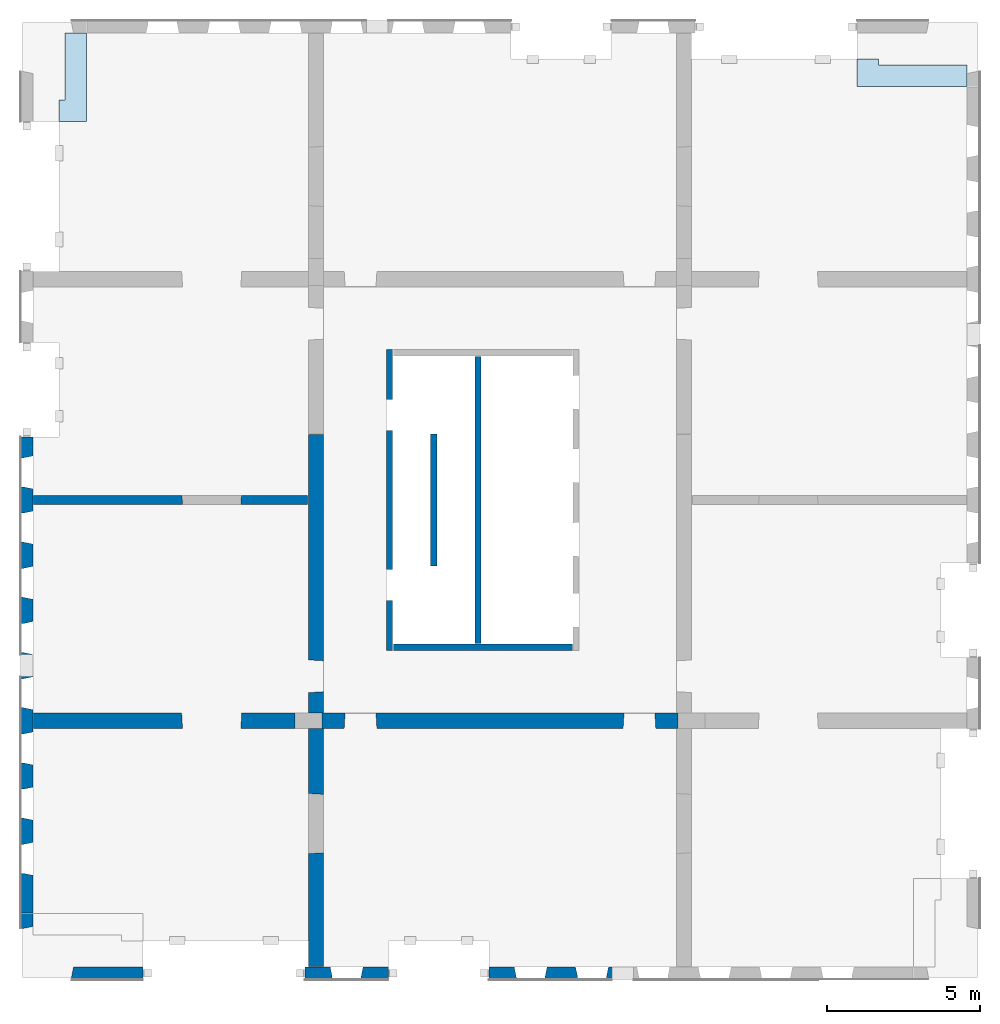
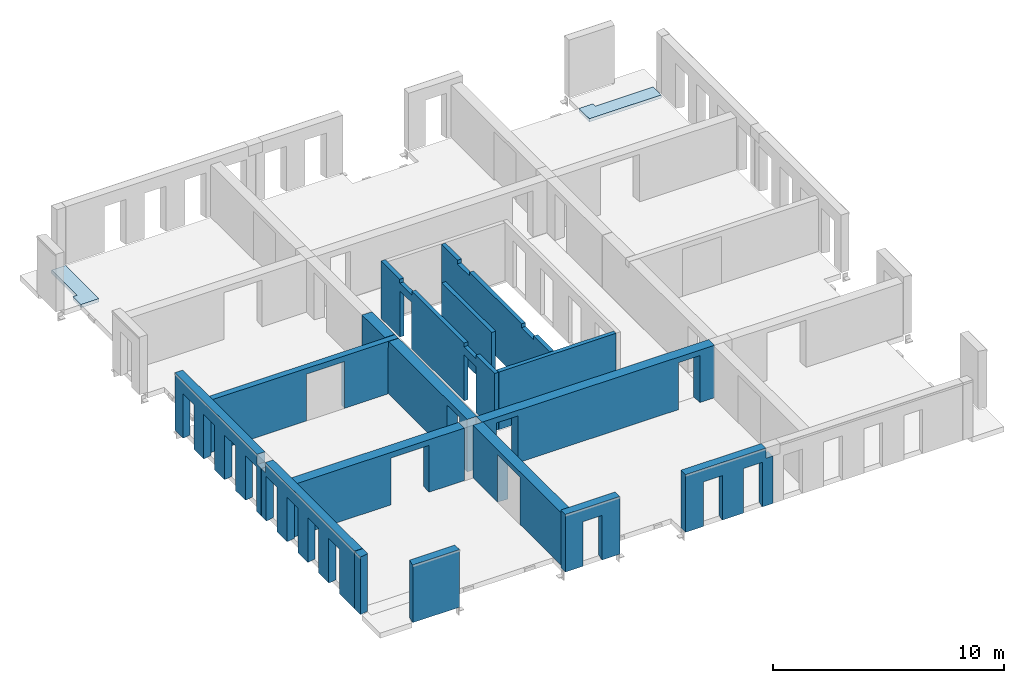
# One storey, part 2 of 6: 15 walls, 2 slabs, 36 openings.
"""IFC2X3 building model written with IfcOpenShell, lengths in millimetres."""

from ifc_helpers import new_model, entity, si_unit, converted_unit, derived_unit, direction, frame, frame_2d, origin, origin_2d_with_axis, place, context, subcontext, project, spatial, polyline, rectangle, outline, extrude, faceted_brep, material, layer, layer_set, layer_usage, type_object, element, save


model = new_model("IFC2X3")

# Units and contexts
model_context = context("Model", 3, precision=0.01, world=origin(), true_north=direction((6.12303176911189e-17, 1.0)))
body_context = subcontext(model_context, "Body", "Model", "MODEL_VIEW")
ifc_project = project(units=[si_unit("LENGTHUNIT", "METRE", prefix="MILLI"), si_unit("AREAUNIT", "SQUARE_METRE"), si_unit("VOLUMEUNIT", "CUBIC_METRE"), converted_unit("PLANEANGLEUNIT", "DEGREE", entity("IfcRatioMeasure", 0.0174532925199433), si_unit("PLANEANGLEUNIT", "RADIAN"), dimensions=[0, 0, 0, 0, 0, 0, 0]), si_unit("MASSUNIT", "GRAM", prefix="KILO"), derived_unit("MASSDENSITYUNIT", [(si_unit("MASSUNIT", "GRAM", prefix="KILO"), 1), (si_unit("LENGTHUNIT", "METRE"), -3)]), si_unit("TIMEUNIT", "SECOND"), si_unit("FREQUENCYUNIT", "HERTZ"), si_unit("THERMODYNAMICTEMPERATUREUNIT", "DEGREE_CELSIUS"), derived_unit("THERMALTRANSMITTANCEUNIT", [(si_unit("MASSUNIT", "GRAM", prefix="KILO"), 1), (si_unit("THERMODYNAMICTEMPERATUREUNIT", "KELVIN"), -1), (si_unit("TIMEUNIT", "SECOND"), -3)]), derived_unit("VOLUMETRICFLOWRATEUNIT", [(si_unit("LENGTHUNIT", "METRE"), 3), (si_unit("TIMEUNIT", "SECOND"), -1)]), si_unit("ELECTRICCURRENTUNIT", "AMPERE"), si_unit("ELECTRICVOLTAGEUNIT", "VOLT"), si_unit("POWERUNIT", "WATT"), si_unit("FORCEUNIT", "NEWTON", prefix="KILO"), si_unit("ILLUMINANCEUNIT", "LUX"), si_unit("LUMINOUSFLUXUNIT", "LUMEN"), si_unit("LUMINOUSINTENSITYUNIT", "CANDELA"), derived_unit("USERDEFINED", [(si_unit("MASSUNIT", "GRAM", prefix="KILO"), -1), (si_unit("LENGTHUNIT", "METRE"), -2), (si_unit("TIMEUNIT", "SECOND"), 3), (si_unit("LUMINOUSFLUXUNIT", "LUMEN"), 1)]), derived_unit("LINEARVELOCITYUNIT", [(si_unit("LENGTHUNIT", "METRE"), 1), (si_unit("TIMEUNIT", "SECOND"), -1)]), si_unit("PRESSUREUNIT", "PASCAL"), derived_unit("USERDEFINED", [(si_unit("LENGTHUNIT", "METRE"), -2), (si_unit("MASSUNIT", "GRAM", prefix="KILO"), 1), (si_unit("TIMEUNIT", "SECOND"), -2)])], contexts=[model_context])

# Site, building, storey
site_placement = place(None, origin())
site = spatial("IfcSite", under=ifc_project, at=site_placement, Name="Default", CompositionType="ELEMENT")
building_placement = place(site_placement, origin())
building = spatial("IfcBuilding", under=site, at=building_placement, Name="niet gebruiken", CompositionType="ELEMENT")
storey_placement = place(building_placement, frame((0.0, 0.0, 21060.0)))
storey = spatial("IfcBuildingStorey", under=building, at=storey_placement, Name="06 zesde verdieping", CompositionType="ELEMENT", Elevation=21060.0)

# Slabs
ifc_material_1 = material(Name="NLRS_f2_beton ihwg")
ifc_layer_1 = layer(ifc_material_1, 170.0)
ifc_layer_set_1 = layer_set([ifc_layer_1], Name="Floor:NLRS_23.21_FL_beton ihwg d=170_gen")
ifc_layer_usage_1 = layer_usage(ifc_layer_set_1, "AXIS3", "POSITIVE", 0.0)
slab_1_placement = place(storey_placement, origin())
element("IfcSlab", 1, at=slab_1_placement, inside=storey, material=ifc_layer_usage_1, Name="Floor:NLRS_23.21_FL_beton ihwg d=170_gen", ObjectType="Floor:NLRS_23.21_FL_beton ihwg d=170_gen", PredefinedType="FLOOR", context=body_context, shape_type="SweptSolid", body=[
    extrude(outline(polyline([(-533.333333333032, -1430.0), (366.666666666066, -1430.0), (366.666666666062, -730.0), (166.66666666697, -730.0), (166.666666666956, 2160.0), (-533.333333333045, 2160.0), (-533.333333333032, -1430.0)])), frame((154820.0, 31513.3333333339, -90.0), z_axis=(0.0, 0.0, -1.0), x_axis=(0.0, 1.0, 0.0)), (0.0, 0.0, 1.0), 170.0),
])
ifc_layer_usage_2 = layer_usage(ifc_layer_set_1, "AXIS3", "POSITIVE", 0.0)
slab_2_placement = place(storey_placement, origin())
element("IfcSlab", 2, at=slab_2_placement, inside=storey, material=ifc_layer_usage_2, Name="Floor:NLRS_23.21_FL_beton ihwg d=170_gen", ObjectType="Floor:NLRS_23.21_FL_beton ihwg d=170_gen", PredefinedType="FLOOR", context=body_context, shape_type="SweptSolid", body=[
    extrude(outline(polyline([(-1196.66666666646, -366.666666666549), (-496.666666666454, -366.666666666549), (-496.666666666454, -166.666666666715), (1693.33333333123, -166.666666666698), (1693.33333333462, 533.333333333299), (-1196.66666666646, 533.333333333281), (-1196.66666666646, -366.666666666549)])), frame((127736.666666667, 31036.6666666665, -90.0), z_axis=(0.0, 0.0, -1.0), x_axis=(0.0, 1.0, 0.0)), (0.0, 0.0, 1.0), 170.0),
])

# Wall, openings
ifc_material_2 = material(Name="NLRS_f2_beton prefab")
ifc_layer_2 = layer(ifc_material_2, 200.0)
ifc_layer_set_2 = layer_set([ifc_layer_2], Name="Basic Wall:NLRS_22.21_WA_beton prefab d=200_gen")
ifc_layer_usage_3 = layer_usage(ifc_layer_set_2, "AXIS2", "NEGATIVE", 100.0)
wall_type_1 = type_object("IfcWallType", Name="Basic Wall:NLRS_22.21_WA_beton prefab d=200_gen", PredefinedType="STANDARD", material=ifc_layer_set_2)
wall_1_placement = place(storey_placement, frame((138150.0, 22400.0, -50.0), z_axis=(0.0, 0.0, 1.0), x_axis=(0.0, -1.0, 0.0)))
wall_1 = element("IfcWallStandardCase", 3, at=wall_1_placement, inside=storey, type_object=wall_type_1, material=ifc_layer_usage_3, Name="Basic Wall:NLRS_22.21_WA_beton prefab d=200_gen", ObjectType="Basic Wall:NLRS_22.21_WA_beton prefab d=200_gen", context=body_context, shape_type="SweptSolid", body=[
    extrude(rectangle(XDim=9800.0, YDim=199.999999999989, at=frame_2d((4900.0, 3.76587649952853e-13), x_axis=(-1.0, 0.0))), origin(), (0.0, 0.0, 1.0), 3039.99999999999),
])
opening_1_placement = place(wall_1_placement, origin())
element("IfcOpeningElement", 4, at=opening_1_placement, cuts=wall_1, Name="Basic Wall:NLRS_22.21_WA_beton prefab d=200_gen", ObjectType="Opening", context=body_context, shape_type="SweptSolid", body=[
    extrude(rectangle(XDim=199.999999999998, YDim=1044.0, at=origin_2d_with_axis()), frame((7672.0, -100.0, 2940.0), z_axis=(0.0, 1.0, 0.0), x_axis=(0.0, 0.0, -1.0)), (0.0, 0.0, 1.0), 199.999999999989),
])
opening_2_placement = place(wall_1_placement, origin())
element("IfcOpeningElement", 5, at=opening_2_placement, cuts=wall_1, Name="Basic Wall:NLRS_22.21_WA_beton prefab d=200_gen", ObjectType="Opening", context=body_context, shape_type="SweptSolid", body=[
    extrude(rectangle(XDim=199.999999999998, YDim=1044.0, at=frame_2d((0.0, 2.1600499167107e-12), x_axis=(1.0, 0.0))), frame((2128.0, -100.0, 2940.0), z_axis=(0.0, 1.0, 0.0), x_axis=(0.0, 0.0, -1.0)), (0.0, 0.0, 1.0), 199.999999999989),
])
opening_3_placement = place(wall_1_placement, origin())
element("IfcOpeningElement", 6, at=opening_3_placement, cuts=wall_1, Name="Basic Wall:NLRS_22.21_WA_beton prefab d=200_gen", ObjectType="Opening", context=body_context, shape_type="SweptSolid", body=[
    extrude(rectangle(XDim=2435.00000000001, YDim=1015.99999999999, at=frame_2d((0.0, 1.10844666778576e-12), x_axis=(1.0, 0.0))), frame((7672.0, -100.0, 1217.5), z_axis=(0.0, 1.0, 0.0), x_axis=(0.0, 0.0, -1.0)), (0.0, 0.0, 1.0), 199.999999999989),
])
opening_4_placement = place(wall_1_placement, origin())
element("IfcOpeningElement", 7, at=opening_4_placement, cuts=wall_1, Name="Basic Wall:NLRS_22.21_WA_beton prefab d=200_gen", ObjectType="Opening", context=body_context, shape_type="SweptSolid", body=[
    extrude(rectangle(XDim=2435.00000000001, YDim=1015.99999999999, at=frame_2d((0.0, -2.18847162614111e-12), x_axis=(1.0, 0.0))), frame((2128.0, -100.0, 1217.5), z_axis=(0.0, 1.0, 0.0), x_axis=(0.0, 0.0, -1.0)), (0.0, 0.0, 1.0), 199.999999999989),
])

ifc_layer_usage_4 = layer_usage(ifc_layer_set_2, "AXIS2", "NEGATIVE", 100.0)
wall_2_placement = place(storey_placement, frame((141030.0, 22180.0, -50.0), z_axis=(0.0, 0.0, 1.0), x_axis=(0.0, -1.0, 0.0)))
wall_2 = element("IfcWallStandardCase", 8, at=wall_2_placement, inside=storey, type_object=wall_type_1, material=ifc_layer_usage_4, Name="Basic Wall:NLRS_22.21_WA_beton prefab d=200_gen", ObjectType="Basic Wall:NLRS_22.21_WA_beton prefab d=200_gen", context=body_context, shape_type="SweptSolid", body=[
    extrude(rectangle(XDim=9360.0, YDim=199.999999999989, at=frame_2d((4680.0, -2.8421709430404e-14), x_axis=(-1.0, 0.0))), origin(), (0.0, 0.0, 1.0), 3039.99999999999),
])
opening_5_placement = place(wall_2_placement, origin())
element("IfcOpeningElement", 9, at=opening_5_placement, cuts=wall_2, Name="Basic Wall:NLRS_22.21_WA_beton prefab d=200_gen", ObjectType="Opening", context=body_context, shape_type="SweptSolid", body=[
    extrude(rectangle(XDim=70.0000000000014, YDim=1044.00000000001, at=origin_2d_with_axis()), frame((7452.0, -100.0, 35.0), z_axis=(0.0, 1.0, 0.0), x_axis=(0.0, 0.0, -1.0)), (0.0, 0.0, 1.0), 199.999999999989),
])
opening_6_placement = place(wall_2_placement, origin())
element("IfcOpeningElement", 10, at=opening_6_placement, cuts=wall_2, Name="Basic Wall:NLRS_22.21_WA_beton prefab d=200_gen", ObjectType="Opening", context=body_context, shape_type="SweptSolid", body=[
    extrude(rectangle(XDim=70.0000000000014, YDim=1044.00000000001, at=origin_2d_with_axis()), frame((1908.0, -100.0, 35.0), z_axis=(0.0, 1.0, 0.0), x_axis=(0.0, 0.0, -1.0)), (0.0, 0.0, 1.0), 199.999999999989),
])
opening_7_placement = place(wall_2_placement, origin())
element("IfcOpeningElement", 11, at=opening_7_placement, cuts=wall_2, Name="Basic Wall:NLRS_22.21_WA_beton prefab d=200_gen", ObjectType="Opening", context=body_context, shape_type="SweptSolid", body=[
    extrude(rectangle(XDim=199.999999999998, YDim=1044.00000000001, at=origin_2d_with_axis()), frame((1908.0, -100.0, 2940.0), z_axis=(0.0, 1.0, 0.0), x_axis=(0.0, 0.0, -1.0)), (0.0, 0.0, 1.0), 199.999999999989),
])
opening_8_placement = place(wall_2_placement, origin())
element("IfcOpeningElement", 12, at=opening_8_placement, cuts=wall_2, Name="Basic Wall:NLRS_22.21_WA_beton prefab d=200_gen", ObjectType="Opening", context=body_context, shape_type="SweptSolid", body=[
    extrude(rectangle(XDim=199.999999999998, YDim=1044.00000000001, at=origin_2d_with_axis()), frame((7452.0, -100.0, 2940.0), z_axis=(0.0, 1.0, 0.0), x_axis=(0.0, 0.0, -1.0)), (0.0, 0.0, 1.0), 199.999999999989),
])
opening_9_placement = place(wall_2_placement, origin())
element("IfcOpeningElement", 13, at=opening_9_placement, cuts=wall_2, Name="Basic Wall:NLRS_22.21_WA_beton prefab d=200_gen", ObjectType="Recess", context=body_context, shape_type="SweptSolid", body=[
    extrude(rectangle(XDim=399.999999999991, YDim=280.000000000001, at=frame_2d((-2.1600499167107e-12, 2.1600499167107e-12), x_axis=(0.0, 1.0))), frame((770.0, -60.0, 438.0), z_axis=(0.0, 1.0, 0.0), x_axis=(1.0, 0.0, 0.0)), (0.0, 0.0, 1.0), 159.999999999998),
])
opening_10_placement = place(wall_2_placement, origin())
element("IfcOpeningElement", 14, at=opening_10_placement, cuts=wall_2, Name="Basic Wall:NLRS_22.21_WA_beton prefab d=200_gen", ObjectType="Recess", context=body_context, shape_type="SweptSolid", body=[
    extrude(rectangle(XDim=399.999999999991, YDim=280.000000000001, at=frame_2d((-2.1600499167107e-12, 2.1600499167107e-12), x_axis=(0.0, 1.0))), frame((1570.0, -60.0, 438.0), z_axis=(0.0, 1.0, 0.0), x_axis=(1.0, 0.0, 0.0)), (0.0, 0.0, 1.0), 159.999999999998),
])
opening_11_placement = place(wall_2_placement, origin())
element("IfcOpeningElement", 15, at=opening_11_placement, cuts=wall_2, Name="Basic Wall:NLRS_22.21_WA_beton prefab d=200_gen", ObjectType="Recess", context=body_context, shape_type="SweptSolid", body=[
    extrude(rectangle(XDim=399.999999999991, YDim=279.999999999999, at=frame_2d((-1.08002495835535e-12, 2.1600499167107e-12), x_axis=(0.0, 1.0))), frame((3160.0, -60.0, 438.0), z_axis=(0.0, 1.0, 0.0), x_axis=(1.0, 0.0, 0.0)), (0.0, 0.0, 1.0), 159.999999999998),
])
opening_12_placement = place(wall_2_placement, origin())
element("IfcOpeningElement", 16, at=opening_12_placement, cuts=wall_2, Name="Basic Wall:NLRS_22.21_WA_beton prefab d=200_gen", ObjectType="Recess", context=body_context, shape_type="SweptSolid", body=[
    extrude(rectangle(XDim=399.999999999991, YDim=279.999999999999, at=frame_2d((1.08002495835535e-12, -2.1600499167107e-12), x_axis=(0.0, 1.0))), frame((3960.0, -60.0, 438.0), z_axis=(0.0, 1.0, 0.0), x_axis=(1.0, 0.0, 0.0)), (0.0, 0.0, 1.0), 159.999999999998),
])

# Walls
ifc_layer_usage_5 = layer_usage(ifc_layer_set_2, "AXIS2", "NEGATIVE", 100.0)
wall_3_placement = place(storey_placement, frame((139590.0, 19660.0, -50.0), z_axis=(0.0, 0.0, 1.0), x_axis=(0.0, -1.0, 0.0)))
element("IfcWallStandardCase", 17, at=wall_3_placement, inside=storey, type_object=wall_type_1, material=ifc_layer_usage_5, Name="Basic Wall:NLRS_22.21_WA_beton prefab d=200_gen", ObjectType="Basic Wall:NLRS_22.21_WA_beton prefab d=200_gen", context=body_context, shape_type="SweptSolid", body=[
    extrude(rectangle(XDim=4320.00000000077, YDim=199.999999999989, at=frame_2d((2160.00000000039, 0.0), x_axis=(-1.0, 0.0))), origin(), (0.0, 0.0, 1.0), 3039.99999999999),
])
ifc_layer_usage_6 = layer_usage(ifc_layer_set_2, "AXIS2", "NEGATIVE", 100.0)
wall_4_placement = place(storey_placement, frame((138270.0, 12700.0, -50.0)))
element("IfcWallStandardCase", 18, at=wall_4_placement, inside=storey, type_object=wall_type_1, material=ifc_layer_usage_6, Name="Basic Wall:NLRS_22.21_WA_beton prefab d=200_gen", ObjectType="Basic Wall:NLRS_22.21_WA_beton prefab d=200_gen", context=body_context, shape_type="SweptSolid", body=[
    extrude(rectangle(XDim=5839.99999999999, YDim=199.999999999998, at=frame_2d((2919.99999999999, -6.82121026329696e-13), x_axis=(-1.0, 0.0))), origin(), (0.0, 0.0, 1.0), 3039.99999999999),
])

# Wall, openings
ifc_layer_3 = layer(ifc_material_2, 300.0)
ifc_layer_set_3 = layer_set([ifc_layer_3], Name="Basic Wall:NLRS_22.21_WA_beton prefab d=300_gen")
ifc_layer_usage_7 = layer_usage(ifc_layer_set_3, "AXIS2", "NEGATIVE", 150.0)
wall_type_2 = type_object("IfcWallType", Name="Basic Wall:NLRS_22.21_WA_beton prefab d=300_gen", PredefinedType="STANDARD", material=ifc_layer_set_3)
wall_5_placement = place(storey_placement, frame((126540.0, 17500.0, -70.0)))
wall_5 = element("IfcWallStandardCase", 19, at=wall_5_placement, inside=storey, type_object=wall_type_2, material=ifc_layer_usage_7, Name="Basic Wall:NLRS_22.21_WA_beton prefab d=300_gen", ObjectType="Basic Wall:NLRS_22.21_WA_beton prefab d=300_gen", context=body_context, shape_type="SweptSolid", body=[
    extrude(rectangle(XDim=9459.99999999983, YDim=300.000000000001, at=frame_2d((4729.99999999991, -1.4210854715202e-14), x_axis=(-1.0, 0.0))), origin(), (0.0, 0.0, 1.0), 2770.0),
])
opening_13_placement = place(wall_5_placement, frame((4842.0, -150.0, 0.0)))
element("IfcOpeningElement", 20, at=opening_13_placement, cuts=wall_5, Name="Basic Wall:NLRS_22.21_WA_beton prefab d=300_gen", ObjectType="Opening", context=body_context, shape_type="Brep", body=[
    faceted_brep([(1918.0, 0.0, 2470.0), (18.0, 0.0, 2470.0), (18.0, 0.0, 0.0), (1918.0, 0.0, 0.0), (1936.0, 300.0, 2488.0), (1936.0, 300.0, 0.0), (0.0, 300.0, 0.0), (0.0, 300.0, 2488.0)], [[[0, 1, 2, 3]], [[4, 5, 6, 7]], [[4, 7, 1, 0]], [[7, 6, 2, 1]], [[6, 5, 3, 2]], [[5, 4, 0, 3]]]),
])
opening_14_placement = place(wall_5_placement, origin())
element("IfcOpeningElement", 21, at=opening_14_placement, cuts=wall_5, Name="Basic Wall:NLRS_22.21_WA_beton prefab d=300_gen", ObjectType="Opening", context=body_context, shape_type="SweptSolid", body=[
    extrude(rectangle(XDim=2440.0, YDim=520.000000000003, at=frame_2d((8.64019966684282e-12, 2.1600499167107e-12), x_axis=(0.0, 1.0))), frame((9200.0, 150.0, 1220.0), z_axis=(0.0, -1.0, 0.0), x_axis=(1.0, 0.0, 0.0)), (0.0, 0.0, 1.0), 300.0),
])

# Wall, opening
ifc_layer_4 = layer(ifc_material_2, 400.0)
ifc_layer_set_4 = layer_set([ifc_layer_4], Name="Basic Wall:NLRS_21.21_WA_beton prefab d=400/420_gen")
ifc_layer_usage_8 = layer_usage(ifc_layer_set_4, "AXIS2", "NEGATIVE", 200.0)
wall_type_3 = type_object("IfcWallType", Name="Basic Wall:NLRS_21.21_WA_beton prefab d=400/420_gen", PredefinedType="STANDARD", material=ifc_layer_set_4)
wall_6_placement = place(storey_placement, frame((130110.0, 2070.0, -50.0), z_axis=(0.0, 0.0, 1.0), x_axis=(-1.0, 0.0, 0.0)))
wall_6 = element("IfcWallStandardCase", 22, at=wall_6_placement, inside=storey, type_object=wall_type_3, material=ifc_layer_usage_8, Name="Basic Wall:NLRS_21.21_WA_beton prefab d=400/420_gen", ObjectType="Basic Wall:NLRS_21.21_WA_beton prefab d=400/420_gen", context=body_context, shape_type="SweptSolid", body=[
    extrude(rectangle(XDim=2330.00000000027, YDim=400.0, at=frame_2d((1165.00000000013, -4.2632564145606e-14), x_axis=(-1.0, 0.0))), origin(), (0.0, 0.0, 1.0), 3040.0),
])
opening_15_placement = place(wall_6_placement, frame((2330.0, 119.0, 0.0)))
element("IfcOpeningElement", 23, at=opening_15_placement, cuts=wall_6, Name="Basic Wall:NLRS_21.21_WA_beton prefab d=400/420_gen", ObjectType="Opening", context=body_context, shape_type="Brep", body=[
    faceted_brep([(0.0, -319.0, 3040.0), (0.0, 0.0, 3040.0), (-65.0, -319.0, 3040.0), (0.0, -319.0, 0.0), (-65.0, -319.0, 0.0), (0.0, 0.0, 0.0)], [[[0, 1, 2]], [[3, 4, 5]], [[2, 4, 3, 0]], [[0, 3, 5, 1]], [[1, 5, 4, 2]]]),
])

ifc_layer_usage_9 = layer_usage(ifc_layer_set_4, "AXIS2", "NEGATIVE", 200.0)
wall_7_placement = place(storey_placement, frame((126320.0, 3530.0, -50.0), z_axis=(0.0, 0.0, 1.0), x_axis=(0.0, 1.0, 0.0)))
wall_7 = element("IfcWallStandardCase", 24, at=wall_7_placement, inside=storey, type_object=wall_type_3, material=ifc_layer_usage_9, Name="Basic Wall:NLRS_21.21_WA_beton prefab d=400/420_gen", ObjectType="Basic Wall:NLRS_21.21_WA_beton prefab d=400/420_gen", context=body_context, shape_type="SweptSolid", body=[
    extrude(rectangle(XDim=490.000000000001, YDim=400.000000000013, at=frame_2d((245.0, -4.2490455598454e-12), x_axis=(-1.0, 0.0))), origin(), (0.0, 0.0, 1.0), 3040.0),
])
opening_16_placement = place(wall_7_placement, frame((0.0, 119.0, 0.0)))
element("IfcOpeningElement", 25, at=opening_16_placement, cuts=wall_7, Name="Basic Wall:NLRS_21.21_WA_beton prefab d=400/420_gen", ObjectType="Opening", context=body_context, shape_type="Brep", body=[
    faceted_brep([(0.0, -319.0, 3040.0), (65.0, -319.0, 3040.0), (0.0, 0.0, 3040.0), (0.0, -319.0, 0.0), (0.0, 0.0, 0.0), (65.0, -319.0, 0.0)], [[[0, 1, 2]], [[3, 4, 5]], [[1, 0, 3, 5]], [[0, 2, 4, 3]], [[2, 1, 5, 4]]]),
])

# Wall, openings
ifc_layer_usage_10 = layer_usage(ifc_layer_set_4, "AXIS2", "NEGATIVE", 200.0)
wall_8_placement = place(storey_placement, frame((126320.0, 4040.0, -50.0), z_axis=(0.0, 0.0, 1.0), x_axis=(0.0, 1.0, 0.0)))
wall_8 = element("IfcWallStandardCase", 26, at=wall_8_placement, inside=storey, type_object=wall_type_3, material=ifc_layer_usage_10, Name="Basic Wall:NLRS_21.21_WA_beton prefab d=400/420_gen", ObjectType="Basic Wall:NLRS_21.21_WA_beton prefab d=400/420_gen", context=body_context, shape_type="SweptSolid", body=[
    extrude(rectangle(XDim=8049.99999999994, YDim=400.000000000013, at=frame_2d((4024.99999999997, 6.19593265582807e-12), x_axis=(-1.0, 0.0))), origin(), (0.0, 0.0, 1.0), 3040.0),
])
opening_17_placement = place(wall_8_placement, frame((1225.0, 200.0, -20.0)))
element("IfcOpeningElement", 27, at=opening_17_placement, cuts=wall_8, Name="Basic Wall:NLRS_21.21_WA_beton prefab d=400/420_gen", ObjectType="Opening", context=body_context, shape_type="Brep", body=[
    faceted_brep([(0.0, -400.0, 2405.0), (0.0, -400.0, 0.0), (1070.0, -400.0, 0.0), (1070.0, -400.0, 2405.0), (1005.0, -81.0, 2370.0), (65.0, -81.0, 2370.0), (1005.0, -81.0, 0.0), (65.0, -81.0, 0.0), (65.0, 0.0, 0.0), (1005.0, 0.0, 0.0), (65.0, 0.0, 2370.0), (1005.0, 0.0, 2370.0)], [[[0, 1, 2, 3]], [[3, 4, 5, 0]], [[2, 6, 4, 3]], [[1, 7, 8, 9, 6, 2]], [[0, 5, 7, 1]], [[10, 11, 9, 8]], [[10, 5, 4, 11]], [[11, 4, 6, 9]], [[8, 7, 5, 10]]]),
])
opening_18_placement = place(wall_8_placement, frame((3025.0, 200.0, -20.0)))
element("IfcOpeningElement", 28, at=opening_18_placement, cuts=wall_8, Name="Basic Wall:NLRS_21.21_WA_beton prefab d=400/420_gen", ObjectType="Opening", context=body_context, shape_type="Brep", body=[
    faceted_brep([(0.0, -400.0, 2405.0), (0.0, -400.0, 0.0), (1070.0, -400.0, 0.0), (1070.0, -400.0, 2405.0), (1005.0, -81.0, 2370.0), (65.0, -81.0, 2370.0), (1005.0, -81.0, 0.0), (65.0, -81.0, 0.0), (65.0, 0.0, 0.0), (1005.0, 0.0, 0.0), (65.0, 0.0, 2370.0), (1005.0, 0.0, 2370.0)], [[[0, 1, 2, 3]], [[3, 4, 5, 0]], [[2, 6, 4, 3]], [[1, 7, 8, 9, 6, 2]], [[0, 5, 7, 1]], [[10, 11, 9, 8]], [[10, 5, 4, 11]], [[11, 4, 6, 9]], [[8, 7, 5, 10]]]),
])
opening_19_placement = place(wall_8_placement, frame((4825.0, 200.0, -20.0)))
element("IfcOpeningElement", 29, at=opening_19_placement, cuts=wall_8, Name="Basic Wall:NLRS_21.21_WA_beton prefab d=400/420_gen", ObjectType="Opening", context=body_context, shape_type="Brep", body=[
    faceted_brep([(0.0, -400.0, 2405.0), (0.0, -400.0, 0.0), (1070.0, -400.0, 0.0), (1070.0, -400.0, 2405.0), (1005.0, -81.0, 2370.0), (65.0, -81.0, 2370.0), (1005.0, -81.0, 0.0), (65.0, -81.0, 0.0), (65.0, 0.0, 0.0), (1005.0, 0.0, 0.0), (65.0, 0.0, 2370.0), (1005.0, 0.0, 2370.0)], [[[0, 1, 2, 3]], [[3, 4, 5, 0]], [[2, 6, 4, 3]], [[1, 7, 8, 9, 6, 2]], [[0, 5, 7, 1]], [[10, 11, 9, 8]], [[10, 5, 4, 11]], [[11, 4, 6, 9]], [[8, 7, 5, 10]]]),
])
opening_20_placement = place(wall_8_placement, frame((6625.0, 200.0, -20.0)))
element("IfcOpeningElement", 30, at=opening_20_placement, cuts=wall_8, Name="Basic Wall:NLRS_21.21_WA_beton prefab d=400/420_gen", ObjectType="Opening", context=body_context, shape_type="Brep", body=[
    faceted_brep([(0.0, -400.0, 2405.0), (0.0, -400.0, 0.0), (1070.0, -400.0, 0.0), (1070.0, -400.0, 2405.0), (1005.0, -81.0, 2370.0), (65.0, -81.0, 2370.0), (1005.0, -81.0, 0.0), (65.0, -81.0, 0.0), (65.0, 0.0, 0.0), (1005.0, 0.0, 0.0), (65.0, 0.0, 2370.0), (1005.0, 0.0, 2370.0)], [[[0, 1, 2, 3]], [[3, 4, 5, 0]], [[2, 6, 4, 3]], [[1, 7, 8, 9, 6, 2]], [[0, 5, 7, 1]], [[10, 11, 9, 8]], [[10, 5, 4, 11]], [[11, 4, 6, 9]], [[8, 7, 5, 10]]]),
])
opening_21_placement = place(wall_8_placement, origin())
element("IfcOpeningElement", 31, at=opening_21_placement, cuts=wall_8, Name="Basic Wall:NLRS_21.21_WA_beton prefab d=400/420_gen", ObjectType="Opening", context=body_context, shape_type="SweptSolid", body=[
    extrude(rectangle(XDim=535.0, YDim=344.999999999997, at=frame_2d((0.0, 1.08002495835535e-12), x_axis=(1.0, 0.0))), frame((7877.49999999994, 200.0, 2772.5), z_axis=(0.0, -1.0, 0.0), x_axis=(0.0, 0.0, 1.0)), (0.0, 0.0, 1.0), 400.0),
])

# Wall, opening
ifc_layer_usage_11 = layer_usage(ifc_layer_set_4, "AXIS2", "NEGATIVE", 200.0)
wall_9_placement = place(storey_placement, frame((138110.0, 2070.0, -50.0), z_axis=(0.0, 0.0, 1.0), x_axis=(-1.0, 0.0, 0.0)))
wall_9 = element("IfcWallStandardCase", 32, at=wall_9_placement, inside=storey, type_object=wall_type_3, material=ifc_layer_usage_11, Name="Basic Wall:NLRS_21.21_WA_beton prefab d=400/420_gen", ObjectType="Basic Wall:NLRS_21.21_WA_beton prefab d=400/420_gen", context=body_context, shape_type="SweptSolid", body=[
    extrude(rectangle(XDim=2720.00000000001, YDim=400.0, at=frame_2d((1360.0, -7.105427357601e-14), x_axis=(-1.0, 0.0))), origin(), (0.0, 0.0, 1.0), 3040.0),
])
opening_22_placement = place(wall_9_placement, frame((1895.0, 200.0, -20.0)))
element("IfcOpeningElement", 33, at=opening_22_placement, cuts=wall_9, Name="Basic Wall:NLRS_21.21_WA_beton prefab d=400/420_gen", ObjectType="Opening", context=body_context, shape_type="Brep", body=[
    faceted_brep([(-1070.0, -400.0, 2405.0), (-1070.0, -400.0, 0.0), (0.0, -400.0, 0.0), (0.0, -400.0, 2405.0), (-65.0, -81.0, 2370.0), (-1005.0, -81.0, 2370.0), (-65.0, -81.0, 0.0), (-1005.0, -81.0, 0.0), (-1005.0, 0.0, 0.0), (-65.0, 0.0, 0.0), (-1005.0, 0.0, 2370.0), (-65.0, 0.0, 2370.0)], [[[0, 1, 2, 3]], [[3, 4, 5, 0]], [[2, 6, 4, 3]], [[1, 7, 8, 9, 6, 2]], [[0, 5, 7, 1]], [[10, 11, 9, 8]], [[10, 5, 4, 11]], [[11, 4, 6, 9]], [[8, 7, 5, 10]]]),
])

# Wall, openings
ifc_layer_usage_12 = layer_usage(ifc_layer_set_4, "AXIS2", "NEGATIVE", 200.0)
wall_10_placement = place(storey_placement, frame((126320.0, 12110.0, -50.0), z_axis=(0.0, 0.0, 1.0), x_axis=(0.0, 1.0, 0.0)))
wall_10 = element("IfcWallStandardCase", 34, at=wall_10_placement, inside=storey, type_object=wall_type_3, material=ifc_layer_usage_12, Name="Basic Wall:NLRS_21.21_WA_beton prefab d=400/420_gen", ObjectType="Basic Wall:NLRS_21.21_WA_beton prefab d=400/420_gen", context=body_context, shape_type="SweptSolid", body=[
    extrude(rectangle(XDim=7450.00000000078, YDim=400.000000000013, at=frame_2d((3725.00000000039, 3.15480974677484e-12), x_axis=(-1.0, 0.0))), origin(), (0.0, 0.0, 1.0), 3040.0),
])
opening_23_placement = place(wall_10_placement, frame((5755.0, 200.0, -20.0)))
element("IfcOpeningElement", 35, at=opening_23_placement, cuts=wall_10, Name="Basic Wall:NLRS_21.21_WA_beton prefab d=400/420_gen", ObjectType="Opening", context=body_context, shape_type="Brep", body=[
    faceted_brep([(0.0, -400.0, 2405.0), (0.0, -400.0, 0.0), (1070.0, -400.0, 0.0), (1070.0, -400.0, 2405.0), (1005.0, -81.0, 2370.0), (65.0, -81.0, 2370.0), (1005.0, -81.0, 0.0), (65.0, -81.0, 0.0), (65.0, 0.0, 0.0), (1005.0, 0.0, 0.0), (65.0, 0.0, 2370.0), (1005.0, 0.0, 2370.0)], [[[0, 1, 2, 3]], [[3, 4, 5, 0]], [[2, 6, 4, 3]], [[1, 7, 8, 9, 6, 2]], [[0, 5, 7, 1]], [[10, 11, 9, 8]], [[10, 5, 4, 11]], [[11, 4, 6, 9]], [[8, 7, 5, 10]]]),
])
opening_24_placement = place(wall_10_placement, frame((2155.0, 200.0, -20.0)))
element("IfcOpeningElement", 36, at=opening_24_placement, cuts=wall_10, Name="Basic Wall:NLRS_21.21_WA_beton prefab d=400/420_gen", ObjectType="Opening", context=body_context, shape_type="Brep", body=[
    faceted_brep([(0.0, -400.0, 2405.0), (0.0, -400.0, 0.0), (1070.0, -400.0, 0.0), (1070.0, -400.0, 2405.0), (1005.0, -81.0, 2370.0), (65.0, -81.0, 2370.0), (1005.0, -81.0, 0.0), (65.0, -81.0, 0.0), (65.0, 0.0, 0.0), (1005.0, 0.0, 0.0), (65.0, 0.0, 2370.0), (1005.0, 0.0, 2370.0)], [[[0, 1, 2, 3]], [[3, 4, 5, 0]], [[2, 6, 4, 3]], [[1, 7, 8, 9, 6, 2]], [[0, 5, 7, 1]], [[10, 11, 9, 8]], [[10, 5, 4, 11]], [[11, 4, 6, 9]], [[8, 7, 5, 10]]]),
])
opening_25_placement = place(wall_10_placement, frame((355.0, 200.0, -20.0)))
element("IfcOpeningElement", 37, at=opening_25_placement, cuts=wall_10, Name="Basic Wall:NLRS_21.21_WA_beton prefab d=400/420_gen", ObjectType="Opening", context=body_context, shape_type="Brep", body=[
    faceted_brep([(0.0, -400.0, 2405.0), (0.0, -400.0, 0.0), (1070.0, -400.0, 0.0), (1070.0, -400.0, 2405.0), (1005.0, -81.0, 2370.0), (65.0, -81.0, 2370.0), (1005.0, -81.0, 0.0), (65.0, -81.0, 0.0), (65.0, 0.0, 0.0), (1005.0, 0.0, 0.0), (65.0, 0.0, 2370.0), (1005.0, 0.0, 2370.0)], [[[0, 1, 2, 3]], [[3, 4, 5, 0]], [[2, 6, 4, 3]], [[1, 7, 8, 9, 6, 2]], [[0, 5, 7, 1]], [[10, 11, 9, 8]], [[10, 5, 4, 11]], [[11, 4, 6, 9]], [[8, 7, 5, 10]]]),
])
opening_26_placement = place(wall_10_placement, frame((3955.0, 200.0, -20.0)))
element("IfcOpeningElement", 38, at=opening_26_placement, cuts=wall_10, Name="Basic Wall:NLRS_21.21_WA_beton prefab d=400/420_gen", ObjectType="Opening", context=body_context, shape_type="Brep", body=[
    faceted_brep([(0.0, -400.0, 2405.0), (0.0, -400.0, 0.0), (1070.0, -400.0, 0.0), (1070.0, -400.0, 2405.0), (1005.0, -81.0, 2370.0), (65.0, -81.0, 2370.0), (1005.0, -81.0, 0.0), (65.0, -81.0, 0.0), (65.0, 0.0, 0.0), (1005.0, 0.0, 0.0), (65.0, 0.0, 2370.0), (1005.0, 0.0, 2370.0)], [[[0, 1, 2, 3]], [[3, 4, 5, 0]], [[2, 6, 4, 3]], [[1, 7, 8, 9, 6, 2]], [[0, 5, 7, 1]], [[10, 11, 9, 8]], [[10, 5, 4, 11]], [[11, 4, 6, 9]], [[8, 7, 5, 10]]]),
])
opening_27_placement = place(wall_10_placement, origin())
element("IfcOpeningElement", 39, at=opening_27_placement, cuts=wall_10, Name="Basic Wall:NLRS_21.21_WA_beton prefab d=400/420_gen", ObjectType="Opening", context=body_context, shape_type="SweptSolid", body=[
    extrude(rectangle(XDim=535.0, YDim=344.999999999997, at=frame_2d((1.08002495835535e-12, 0.0), x_axis=(0.0, 1.0))), frame((172.5, 200.0, 2772.5), z_axis=(0.0, -1.0, 0.0), x_axis=(-1.0, 0.0, 0.0)), (0.0, 0.0, 1.0), 400.0),
])

ifc_layer_usage_13 = layer_usage(ifc_layer_set_4, "AXIS2", "NEGATIVE", 200.0)
wall_11_placement = place(storey_placement, frame((145740.0, 2070.0, -50.0), z_axis=(0.0, 0.0, 1.0), x_axis=(-1.0, 0.0, 0.0)))
wall_11 = element("IfcWallStandardCase", 40, at=wall_11_placement, inside=storey, type_object=wall_type_3, material=ifc_layer_usage_13, Name="Basic Wall:NLRS_21.21_WA_beton prefab d=400/420_gen", ObjectType="Basic Wall:NLRS_21.21_WA_beton prefab d=400/420_gen", context=body_context, shape_type="SweptSolid", body=[
    extrude(rectangle(XDim=4350.0000000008, YDim=400.0, at=frame_2d((2175.0000000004, 4.2632564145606e-14), x_axis=(-1.0, 0.0))), origin(), (0.0, 0.0, 1.0), 3040.0),
])
opening_28_placement = place(wall_11_placement, frame((3525.0, 200.0, -20.0)))
element("IfcOpeningElement", 41, at=opening_28_placement, cuts=wall_11, Name="Basic Wall:NLRS_21.21_WA_beton prefab d=400/420_gen", ObjectType="Opening", context=body_context, shape_type="Brep", body=[
    faceted_brep([(0.0, -400.0, 2405.0), (-1070.0, -400.0, 2405.0), (-1070.0, -400.0, 0.0), (0.0, -400.0, 0.0), (-65.0, -81.0, 2370.0), (-1005.0, -81.0, 2370.0), (-1005.0, -81.0, 0.0), (-1005.0, 0.0, 0.0), (-65.0, 0.0, 0.0), (-65.0, -81.0, 0.0), (-65.0, 0.0, 2370.0), (-1005.0, 0.0, 2370.0)], [[[0, 1, 2, 3]], [[1, 0, 4, 5]], [[2, 1, 5, 6]], [[3, 2, 6, 7, 8, 9]], [[0, 3, 9, 4]], [[10, 8, 7, 11]], [[10, 11, 5, 4]], [[11, 7, 6, 5]], [[8, 10, 4, 9]]]),
])
opening_29_placement = place(wall_11_placement, frame((1525.0, 200.0, -20.0)))
element("IfcOpeningElement", 42, at=opening_29_placement, cuts=wall_11, Name="Basic Wall:NLRS_21.21_WA_beton prefab d=400/420_gen", ObjectType="Opening", context=body_context, shape_type="Brep", body=[
    faceted_brep([(0.0, -400.0, 2405.0), (-1070.0, -400.0, 2405.0), (-1070.0, -400.0, 0.0), (0.0, -400.0, 0.0), (-65.0, -81.0, 2370.0), (-1005.0, -81.0, 2370.0), (-1005.0, -81.0, 0.0), (-1005.0, 0.0, 0.0), (-65.0, 0.0, 0.0), (-65.0, -81.0, 0.0), (-65.0, 0.0, 2370.0), (-1005.0, 0.0, 2370.0)], [[[0, 1, 2, 3]], [[1, 0, 4, 5]], [[2, 1, 5, 6]], [[3, 2, 6, 7, 8, 9]], [[0, 3, 9, 4]], [[10, 8, 7, 11]], [[10, 11, 5, 4]], [[11, 7, 6, 5]], [[8, 10, 4, 9]]]),
])
opening_30_placement = place(wall_11_placement, origin())
element("IfcOpeningElement", 43, at=opening_30_placement, cuts=wall_11, Name="Basic Wall:NLRS_21.21_WA_beton prefab d=400/420_gen", ObjectType="Opening", context=body_context, shape_type="SweptSolid", body=[
    extrude(rectangle(XDim=535.0, YDim=345.000000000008, at=frame_2d((0.0, 0.0), x_axis=(0.0, 1.0))), frame((172.500000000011, 200.0, 2772.5), z_axis=(0.0, -1.0, 0.0), x_axis=(-1.0, 0.0, 0.0)), (0.0, 0.0, 1.0), 400.0),
])

ifc_layer_5 = layer(ifc_material_2, 500.0)
ifc_layer_set_5 = layer_set([ifc_layer_5], Name="Basic Wall:NLRS_22.21_WA_beton prefab d=500_gen")
ifc_layer_usage_14 = layer_usage(ifc_layer_set_5, "AXIS2", "NEGATIVE", 250.0)
wall_type_4 = type_object("IfcWallType", Name="Basic Wall:NLRS_22.21_WA_beton prefab d=500_gen", PredefinedType="STANDARD", material=ifc_layer_set_5)
wall_12_placement = place(storey_placement, frame((135950.003540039, 10300.0, -70.0)))
wall_12 = element("IfcWallStandardCase", 44, at=wall_12_placement, inside=storey, type_object=wall_type_4, material=ifc_layer_usage_14, Name="Basic Wall:NLRS_22.21_WA_beton prefab d=500_gen", ObjectType="Basic Wall:NLRS_22.21_WA_beton prefab d=500_gen", context=body_context, shape_type="SweptSolid", body=[
    extrude(rectangle(XDim=11599.9964599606, YDim=499.999999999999, at=frame_2d((5799.99822998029, 1.4210854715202e-13), x_axis=(-1.0, 0.0))), origin(), (0.0, 0.0, 1.0), 2770.00000000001),
])
opening_31_placement = place(wall_12_placement, frame((719.996459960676, -250.0, 0.0)))
element("IfcOpeningElement", 45, at=opening_31_placement, cuts=wall_12, Name="Basic Wall:NLRS_22.21_WA_beton prefab d=500_gen", ObjectType="Opening", context=body_context, shape_type="Brep", body=[
    faceted_brep([(0.0, 0.0, 2478.0), (30.0, 500.0, 2448.0), (30.0, 500.0, 0.0), (0.0, 0.0, 0.0), (1036.0, 500.0, 0.0), (1066.0, 0.0, 0.0), (1036.0, 500.0, 2448.0), (1066.0, 0.0, 2478.0)], [[[0, 1, 2, 3]], [[3, 2, 4, 5]], [[6, 4, 2, 1]], [[7, 0, 3, 5]], [[7, 6, 1, 0]], [[5, 4, 6, 7]]]),
])
opening_32_placement = place(wall_12_placement, frame((9813.99645996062, -250.0, 0.0)))
element("IfcOpeningElement", 46, at=opening_32_placement, cuts=wall_12, Name="Basic Wall:NLRS_22.21_WA_beton prefab d=500_gen", ObjectType="Opening", context=body_context, shape_type="Brep", body=[
    faceted_brep([(0.0, 0.0, 2478.0), (30.0, 500.0, 2448.0), (30.0, 500.0, 0.0), (0.0, 0.0, 0.0), (1036.0, 500.0, 0.0), (1066.0, 0.0, 0.0), (1036.0, 500.0, 2448.0), (1066.0, 0.0, 2478.0)], [[[0, 1, 2, 3]], [[3, 2, 4, 5]], [[6, 4, 2, 1]], [[7, 0, 3, 5]], [[7, 6, 1, 0]], [[5, 4, 6, 7]]]),
])

# Wall, opening
ifc_layer_usage_15 = layer_usage(ifc_layer_set_5, "AXIS2", "NEGATIVE", 250.0)
wall_13_placement = place(storey_placement, frame((126540.0, 10300.0, -70.0)))
wall_13 = element("IfcWallStandardCase", 47, at=wall_13_placement, inside=storey, type_object=wall_type_4, material=ifc_layer_usage_15, Name="Basic Wall:NLRS_22.21_WA_beton prefab d=500_gen", ObjectType="Basic Wall:NLRS_22.21_WA_beton prefab d=500_gen", context=body_context, shape_type="SweptSolid", body=[
    extrude(rectangle(XDim=8530.00354003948, YDim=499.999999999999, at=frame_2d((4265.00177001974, -2.8421709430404e-14), x_axis=(-1.0, 0.0))), origin(), (0.0, 0.0, 1.0), 2770.0),
])
opening_33_placement = place(wall_13_placement, frame((4830.0, -250.0, 0.0)))
element("IfcOpeningElement", 48, at=opening_33_placement, cuts=wall_13, Name="Basic Wall:NLRS_22.21_WA_beton prefab d=500_gen", ObjectType="Opening", context=body_context, shape_type="Brep", body=[
    faceted_brep([(1930.0, 0.0, 2470.0), (30.0, 0.0, 2470.0), (30.0, 0.0, 0.0), (1930.0, 0.0, 0.0), (1960.0, 500.0, 2500.0), (1960.0, 500.0, 0.0), (0.0, 500.0, 0.0), (0.0, 500.0, 2500.0)], [[[0, 1, 2, 3]], [[4, 5, 6, 7]], [[4, 7, 1, 0]], [[7, 6, 2, 1]], [[6, 5, 3, 2]], [[5, 4, 0, 3]]]),
])

# Wall, openings
ifc_layer_usage_16 = layer_usage(ifc_layer_set_5, "AXIS2", "NEGATIVE", 250.0)
wall_14_placement = place(storey_placement, frame((135750.0, 19640.0, -70.0), z_axis=(0.0, 0.0, 1.0), x_axis=(0.0, -1.0, 0.0)))
wall_14 = element("IfcWallStandardCase", 49, at=wall_14_placement, inside=storey, type_object=wall_type_4, material=ifc_layer_usage_16, Name="Basic Wall:NLRS_22.21_WA_beton prefab d=500_gen", ObjectType="Basic Wall:NLRS_22.21_WA_beton prefab d=500_gen", context=body_context, shape_type="SweptSolid", body=[
    extrude(rectangle(XDim=9089.98844925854, YDim=499.99999999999, at=frame_2d((4544.99422462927, -7.105427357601e-14), x_axis=(-1.0, 0.0))), origin(), (0.0, 0.0, 1.0), 2770.00000000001),
])
opening_34_placement = place(wall_14_placement, frame((8420.0, -250.0, 0.0)))
element("IfcOpeningElement", 50, at=opening_34_placement, cuts=wall_14, Name="Basic Wall:NLRS_22.21_WA_beton prefab d=500_gen", ObjectType="Opening", context=body_context, shape_type="Brep", body=[
    faceted_brep([(-1066.0, 0.0, 2478.0), (-1036.0, 500.0, 2448.0), (-1036.0, 500.0, 0.0), (-1066.0, 0.0, 0.0), (-30.0, 500.0, 0.0), (0.0, 0.0, 0.0), (-30.0, 500.0, 2448.0), (0.0, 0.0, 2478.0)], [[[0, 1, 2, 3]], [[3, 2, 4, 5]], [[6, 4, 2, 1]], [[7, 0, 3, 5]], [[7, 6, 1, 0]], [[5, 4, 6, 7]]]),
])
opening_35_placement = place(wall_14_placement, origin())
element("IfcOpeningElement", 51, at=opening_35_placement, cuts=wall_14, Name="Basic Wall:NLRS_22.21_WA_beton prefab d=500_gen", ObjectType="Opening", context=body_context, shape_type="SweptSolid", body=[
    extrude(rectangle(XDim=350.000000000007, YDim=339.999999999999, at=frame_2d((-1.08002495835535e-12, 0.0), x_axis=(0.0, 1.0))), frame((2140.0, 250.0, 2595.0), z_axis=(0.0, -1.0, 0.0), x_axis=(-1.0, 0.0, 0.0)), (0.0, 0.0, 1.0), 500.0),
])

# Wall, opening
ifc_layer_usage_17 = layer_usage(ifc_layer_set_5, "AXIS2", "NEGATIVE", 250.0)
wall_15_placement = place(storey_placement, frame((135750.0, 10050.0115507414, -70.0), z_axis=(0.0, 0.0, 1.0), x_axis=(0.0, -1.0, 0.0)))
wall_15 = element("IfcWallStandardCase", 52, at=wall_15_placement, inside=storey, type_object=wall_type_4, material=ifc_layer_usage_17, Name="Basic Wall:NLRS_22.21_WA_beton prefab d=500_gen", ObjectType="Basic Wall:NLRS_22.21_WA_beton prefab d=500_gen", context=body_context, shape_type="SweptSolid", body=[
    extrude(rectangle(XDim=7760.01155073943, YDim=499.99999999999, at=frame_2d((3880.00577536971, -1.08002495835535e-12), x_axis=(-1.0, 0.0))), origin(), (0.0, 0.0, 1.0), 2770.0),
])
opening_36_placement = place(wall_15_placement, frame((4080.0115507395, -250.0, 0.0)))
element("IfcOpeningElement", 53, at=opening_36_placement, cuts=wall_15, Name="Basic Wall:NLRS_22.21_WA_beton prefab d=500_gen", ObjectType="Opening", context=body_context, shape_type="Brep", body=[
    faceted_brep([(-30.0, 500.0, 2470.0), (-30.0, 500.0, 0.0), (-1930.0, 500.0, 0.0), (-1930.0, 500.0, 2470.0), (0.0, 0.0, 2500.0), (-1960.0, 0.0, 2500.0), (-1960.0, 0.0, 0.0), (0.0, 0.0, 0.0)], [[[0, 1, 2, 3]], [[4, 5, 6, 7]], [[4, 0, 3, 5]], [[5, 3, 2, 6]], [[6, 2, 1, 7]], [[7, 1, 0, 4]]]),
])

save(model, "model.ifc")
